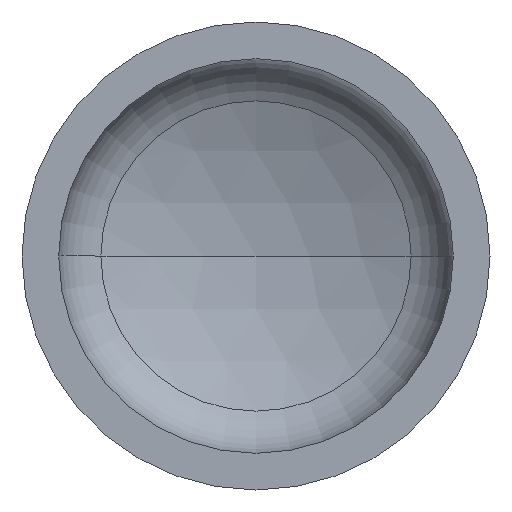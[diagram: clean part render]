
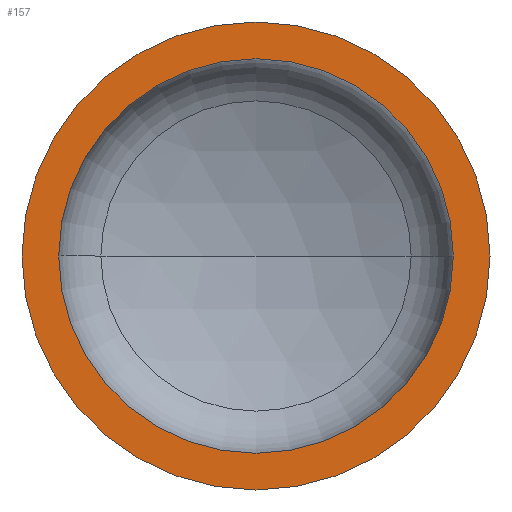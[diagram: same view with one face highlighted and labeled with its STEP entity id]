
A CAD part, front view. The second image highlights one B-rep face of the part: STEP entity #157.
In plain terms, the highlighted planar face has unit normal (0, -1, 0).
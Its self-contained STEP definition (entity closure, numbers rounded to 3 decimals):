
#2 = EDGE_LOOP ( 'NONE', ( #91, #264 ) ) ;
#6 = VERTEX_POINT ( 'NONE', #256 ) ;
#8 = ORIENTED_EDGE ( 'NONE', *, *, #139, .F. ) ;
#33 = FACE_BOUND ( 'NONE', #42, .T. ) ;
#39 = VERTEX_POINT ( 'NONE', #235 ) ;
#42 = EDGE_LOOP ( 'NONE', ( #8, #45 ) ) ;
#45 = ORIENTED_EDGE ( 'NONE', *, *, #306, .F. ) ;
#49 = AXIS2_PLACEMENT_3D ( 'NONE', #181, #183, #404 ) ;
#74 = VERTEX_POINT ( 'NONE', #231 ) ;
#75 = AXIS2_PLACEMENT_3D ( 'NONE', #213, #196, #350 ) ;
#87 = AXIS2_PLACEMENT_3D ( 'NONE', #211, #192, #193 ) ;
#91 = ORIENTED_EDGE ( 'NONE', *, *, #124, .T. ) ;
#95 = VERTEX_POINT ( 'NONE', #356 ) ;
#96 = AXIS2_PLACEMENT_3D ( 'NONE', #226, #224, #225 ) ;
#123 = AXIS2_PLACEMENT_3D ( 'NONE', #343, #342, #340 ) ;
#124 = EDGE_CURVE ( 'NONE', #6, #39, #319, .T. ) ;
#138 = EDGE_CURVE ( 'NONE', #39, #6, #241, .T. ) ;
#139 = EDGE_CURVE ( 'NONE', #95, #74, #175, .T. ) ;
#157 = ADVANCED_FACE ( 'NONE', ( #33, #363 ), #299, .F. ) ;
#175 = CIRCLE ( 'NONE', #87, 548. ) ;
#181 = CARTESIAN_POINT ( 'NONE',  ( 0., 0., 0. ) ) ;
#183 = DIRECTION ( 'NONE',  ( 0., -1., 0. ) ) ;
#192 = DIRECTION ( 'NONE',  ( 0., -1., 0. ) ) ;
#193 = DIRECTION ( 'NONE',  ( 1., 0., 0. ) ) ;
#196 = DIRECTION ( 'NONE',  ( 0., 1., 0. ) ) ;
#211 = CARTESIAN_POINT ( 'NONE',  ( 0., 0., 0. ) ) ;
#213 = CARTESIAN_POINT ( 'NONE',  ( -650., 0., 0. ) ) ;
#215 = CIRCLE ( 'NONE', #49, 548. ) ;
#224 = DIRECTION ( 'NONE',  ( 0., -1., 0. ) ) ;
#225 = DIRECTION ( 'NONE',  ( 1., 0., 0. ) ) ;
#226 = CARTESIAN_POINT ( 'NONE',  ( 0., 0., 0. ) ) ;
#231 = CARTESIAN_POINT ( 'NONE',  ( -548., 0., 0. ) ) ;
#235 = CARTESIAN_POINT ( 'NONE',  ( -650., 0., 0. ) ) ;
#241 = CIRCLE ( 'NONE', #96, 650. ) ;
#256 = CARTESIAN_POINT ( 'NONE',  ( 650., 0., 0. ) ) ;
#264 = ORIENTED_EDGE ( 'NONE', *, *, #138, .T. ) ;
#299 = PLANE ( 'NONE',  #75 ) ;
#306 = EDGE_CURVE ( 'NONE', #74, #95, #215, .T. ) ;
#319 = CIRCLE ( 'NONE', #123, 650. ) ;
#340 = DIRECTION ( 'NONE',  ( 1., 0., 0. ) ) ;
#342 = DIRECTION ( 'NONE',  ( 0., -1., 0. ) ) ;
#343 = CARTESIAN_POINT ( 'NONE',  ( 0., 0., 0. ) ) ;
#350 = DIRECTION ( 'NONE',  ( -1., 0., 0. ) ) ;
#356 = CARTESIAN_POINT ( 'NONE',  ( 548., 0., 0. ) ) ;
#363 = FACE_OUTER_BOUND ( 'NONE', #2, .T. ) ;
#404 = DIRECTION ( 'NONE',  ( 1., 0., 0. ) ) ;
